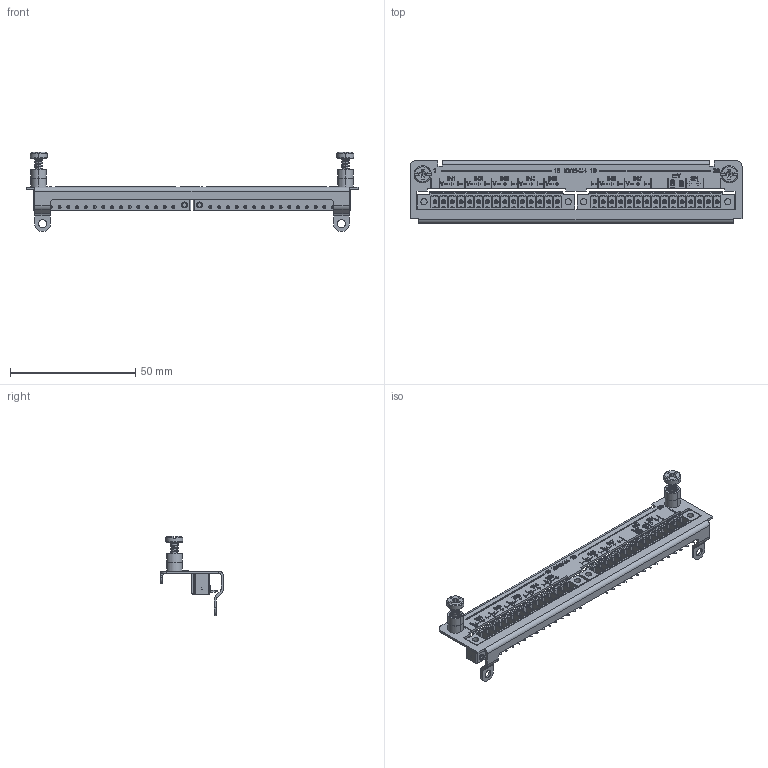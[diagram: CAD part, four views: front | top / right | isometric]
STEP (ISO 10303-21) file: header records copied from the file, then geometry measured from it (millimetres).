
FILE_DESCRIPTION(/* description */ (''),/* implementation_level */ '2;1');
FILE_NAME(/* name */ 'C:\Users\jondi\Desktop\FLEX 3D STP\U4-FLEX.stp',/* time_stamp */ '2021-03-10T15:46:10-06:00',/* author */ ('jondi'),/* organization */ (''),/* preprocessor_version */ 'ST-DEVELOPER v17.2',/* originating_system */ 'Autodesk Inventor 2019',/* authorisation */ '');
FILE_SCHEMA (('AUTOMOTIVE_DESIGN { 1 0 10303 214 3 1 1 }'));
Products named in the file (7): U4; 9579230110; 9579200052; 9579200052_1; 44090; 9579200065; 44095
Assembly tree (8 placements, depth 4):
  U4
    9579230110
      9579200052
        9579200052_1
      44090  x2
    9579200065
    44095  x2
Bounding box: 132.59 x 25.02 x 31.72 mm (x, y, z)
Volume: 8171.9 mm3; surface area: 18579.5 mm2
Topology: 105 solids, 105 shells, 3358 faces, 8154 edges, 5238 vertices
Faces by surface type: plane 2726, cylinder 342, bspline 202, cone 84, torus 4
Full cylindrical faces by diameter (mm): 0.457 x2, 1.2 x30, 1.25 x30, 1.6 x28, 1.8 x4, 2.4 x4, 2.5 x4, 3.251 x2, 4.826 x2
Entity records: 68004 total; most frequent: CARTESIAN_POINT 16238, ORIENTED_EDGE 10622, DIRECTION 9502, EDGE_CURVE 5311, LINE 4286, VECTOR 4286, VERTEX_POINT 3444, AXIS2_PLACEMENT_3D 2608
